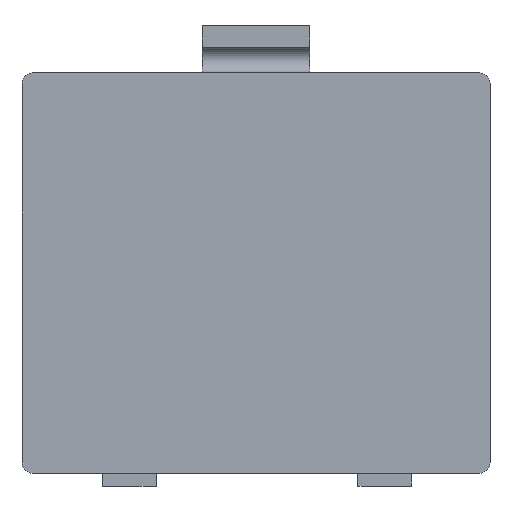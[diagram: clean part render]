
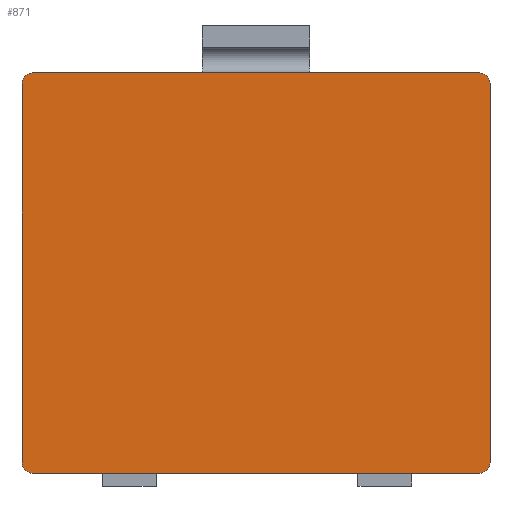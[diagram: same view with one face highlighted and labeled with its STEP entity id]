
A CAD part, top view. The second image highlights one B-rep face of the part: STEP entity #871.
In plain terms, the highlighted planar face has unit normal (0, 0, 1).
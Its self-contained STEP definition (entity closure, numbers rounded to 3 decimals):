
#1 = CARTESIAN_POINT ( 'NONE',  ( -11.451, 29.974, 1.7 ) ) ;
#44 = CARTESIAN_POINT ( 'NONE',  ( -54.051, 30.974, 1.7 ) ) ;
#66 = EDGE_CURVE ( 'NONE', #1346, #1656, #1123, .T. ) ;
#93 = CIRCLE ( 'NONE', #1216, 1. ) ;
#129 = ORIENTED_EDGE ( 'NONE', *, *, #1785, .T. ) ;
#159 = ORIENTED_EDGE ( 'NONE', *, *, #1267, .T. ) ;
#194 = ORIENTED_EDGE ( 'NONE', *, *, #225, .T. ) ;
#199 = CARTESIAN_POINT ( 'NONE',  ( -55.051, 29.974, 1.7 ) ) ;
#225 = EDGE_CURVE ( 'NONE', #1656, #1268, #967, .T. ) ;
#226 = VERTEX_POINT ( 'NONE', #1329 ) ;
#236 = DIRECTION ( 'NONE',  ( 0., 0., -1. ) ) ;
#247 = ORIENTED_EDGE ( 'NONE', *, *, #66, .T. ) ;
#280 = LINE ( 'NONE', #557, #959 ) ;
#283 = VECTOR ( 'NONE', #1548, 1000. ) ;
#285 = AXIS2_PLACEMENT_3D ( 'NONE', #1351, #1522, #685 ) ;
#301 = ORIENTED_EDGE ( 'NONE', *, *, #1472, .T. ) ;
#318 = CARTESIAN_POINT ( 'NONE',  ( -12.451, 29.974, 1.7 ) ) ;
#325 = VECTOR ( 'NONE', #1153, 1000. ) ;
#380 = DIRECTION ( 'NONE',  ( 1., 0., 0. ) ) ;
#382 = AXIS2_PLACEMENT_3D ( 'NONE', #1218, #236, #1056 ) ;
#411 = CIRCLE ( 'NONE', #285, 1. ) ;
#421 = VERTEX_POINT ( 'NONE', #1 ) ;
#425 = DIRECTION ( 'NONE',  ( 0., -1., 0. ) ) ;
#432 = VERTEX_POINT ( 'NONE', #1640 ) ;
#441 = CARTESIAN_POINT ( 'NONE',  ( -12.451, -5.326, 1.7 ) ) ;
#455 = EDGE_CURVE ( 'NONE', #1363, #421, #901, .T. ) ;
#476 = CARTESIAN_POINT ( 'NONE',  ( -12.451, -6.326, 1.7 ) ) ;
#484 = AXIS2_PLACEMENT_3D ( 'NONE', #318, #1711, #1137 ) ;
#555 = CARTESIAN_POINT ( 'NONE',  ( -12.451, 30.974, 1.7 ) ) ;
#557 = CARTESIAN_POINT ( 'NONE',  ( -55.051, -5.326, 1.7 ) ) ;
#593 = FACE_OUTER_BOUND ( 'NONE', #1358, .T. ) ;
#595 = CARTESIAN_POINT ( 'NONE',  ( -55.051, -5.326, 1.7 ) ) ;
#631 = ORIENTED_EDGE ( 'NONE', *, *, #1495, .T. ) ;
#657 = ORIENTED_EDGE ( 'NONE', *, *, #455, .T. ) ;
#685 = DIRECTION ( 'NONE',  ( -1., 0., 0. ) ) ;
#699 = DIRECTION ( 'NONE',  ( -1., 0., 0. ) ) ;
#871 = ADVANCED_FACE ( 'NONE', ( #593 ), #928, .F. ) ;
#901 = LINE ( 'NONE', #1221, #1762 ) ;
#928 = PLANE ( 'NONE',  #382 ) ;
#959 = VECTOR ( 'NONE', #425, 1000. ) ;
#967 = CIRCLE ( 'NONE', #1635, 1. ) ;
#1056 = DIRECTION ( 'NONE',  ( -1., 0., 0. ) ) ;
#1070 = CIRCLE ( 'NONE', #484, 1. ) ;
#1117 = CARTESIAN_POINT ( 'NONE',  ( -54.051, 30.974, 1.7 ) ) ;
#1123 = LINE ( 'NONE', #1117, #283 ) ;
#1137 = DIRECTION ( 'NONE',  ( -1., 0., 0. ) ) ;
#1153 = DIRECTION ( 'NONE',  ( 1., 0., 0. ) ) ;
#1161 = VERTEX_POINT ( 'NONE', #595 ) ;
#1191 = ORIENTED_EDGE ( 'NONE', *, *, #1609, .T. ) ;
#1200 = CARTESIAN_POINT ( 'NONE',  ( -54.051, 29.974, 1.7 ) ) ;
#1205 = DIRECTION ( 'NONE',  ( 0., 0., 1. ) ) ;
#1216 = AXIS2_PLACEMENT_3D ( 'NONE', #441, #1263, #699 ) ;
#1218 = CARTESIAN_POINT ( 'NONE',  ( -12.451, 29.974, 1.7 ) ) ;
#1221 = CARTESIAN_POINT ( 'NONE',  ( -11.451, 29.974, 1.7 ) ) ;
#1263 = DIRECTION ( 'NONE',  ( 0., 0., 1. ) ) ;
#1267 = EDGE_CURVE ( 'NONE', #226, #432, #1732, .T. ) ;
#1268 = VERTEX_POINT ( 'NONE', #199 ) ;
#1329 = CARTESIAN_POINT ( 'NONE',  ( -54.051, -6.326, 1.7 ) ) ;
#1346 = VERTEX_POINT ( 'NONE', #555 ) ;
#1351 = CARTESIAN_POINT ( 'NONE',  ( -54.051, -5.326, 1.7 ) ) ;
#1358 = EDGE_LOOP ( 'NONE', ( #1191, #247, #194, #631, #129, #159, #301, #657 ) ) ;
#1363 = VERTEX_POINT ( 'NONE', #1375 ) ;
#1375 = CARTESIAN_POINT ( 'NONE',  ( -11.451, -5.326, 1.7 ) ) ;
#1472 = EDGE_CURVE ( 'NONE', #432, #1363, #93, .T. ) ;
#1495 = EDGE_CURVE ( 'NONE', #1268, #1161, #280, .T. ) ;
#1522 = DIRECTION ( 'NONE',  ( 0., 0., 1. ) ) ;
#1548 = DIRECTION ( 'NONE',  ( -1., 0., 0. ) ) ;
#1609 = EDGE_CURVE ( 'NONE', #421, #1346, #1070, .T. ) ;
#1635 = AXIS2_PLACEMENT_3D ( 'NONE', #1200, #1205, #380 ) ;
#1640 = CARTESIAN_POINT ( 'NONE',  ( -12.451, -6.326, 1.7 ) ) ;
#1652 = DIRECTION ( 'NONE',  ( 0., 1., 0. ) ) ;
#1656 = VERTEX_POINT ( 'NONE', #44 ) ;
#1711 = DIRECTION ( 'NONE',  ( 0., 0., 1. ) ) ;
#1732 = LINE ( 'NONE', #476, #325 ) ;
#1762 = VECTOR ( 'NONE', #1652, 1000. ) ;
#1785 = EDGE_CURVE ( 'NONE', #1161, #226, #411, .T. ) ;
